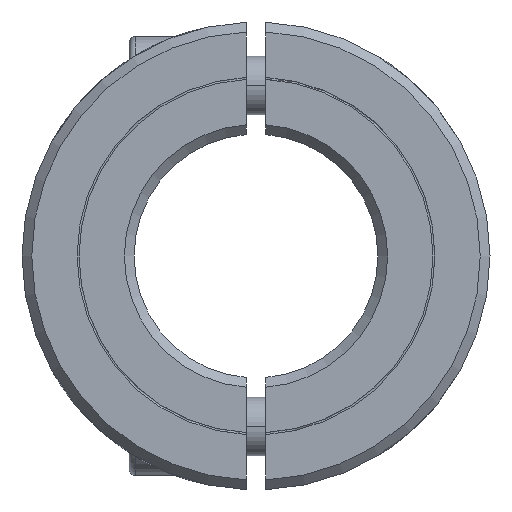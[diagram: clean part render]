
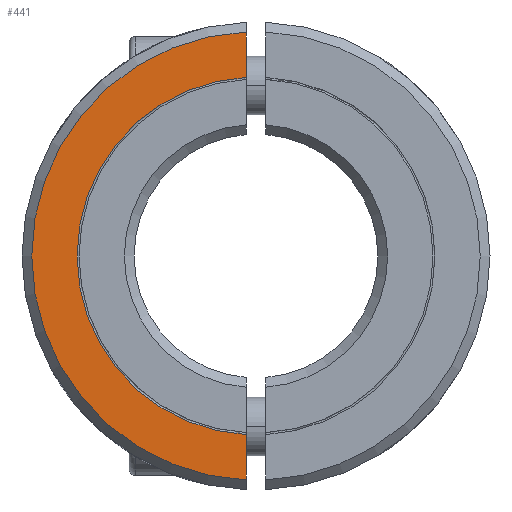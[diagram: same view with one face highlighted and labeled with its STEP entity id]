
A CAD part, left-side view. The second image highlights one B-rep face of the part: STEP entity #441.
In plain terms, the highlighted planar face has unit normal (-1, 0, 0).
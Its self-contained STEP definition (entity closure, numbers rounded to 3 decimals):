
#26=CARTESIAN_POINT('',(-7.5,0.,0.));
#27=DIRECTION('',(-1.,0.,0.));
#28=DIRECTION('',(0.,0.054,0.999));
#29=AXIS2_PLACEMENT_3D('',#26,#27,#28);
#31=DIRECTION('',(0.,0.,-1.));
#32=VECTOR('',#31,4.656);
#33=CARTESIAN_POINT('',(-7.5,1.,-18.323));
#34=LINE('',#33,#32);
#35=DIRECTION('',(0.,0.,-1.));
#36=VECTOR('',#35,4.656);
#37=CARTESIAN_POINT('',(-7.5,1.,22.978));
#38=LINE('',#37,#36);
#207=CARTESIAN_POINT('',(-7.5,0.,0.));
#208=DIRECTION('',(1.,0.,0.));
#209=DIRECTION('',(0.,0.043,-0.999));
#210=AXIS2_PLACEMENT_3D('',#207,#208,#209);
#386=CARTESIAN_POINT('',(-7.5,1.,-22.978));
#387=CARTESIAN_POINT('',(-7.5,1.,22.978));
#388=VERTEX_POINT('',#386);
#389=VERTEX_POINT('',#387);
#418=CARTESIAN_POINT('',(-7.5,1.,18.323));
#419=CARTESIAN_POINT('',(-7.5,1.,-18.323));
#420=VERTEX_POINT('',#418);
#421=VERTEX_POINT('',#419);
#426=CARTESIAN_POINT('',(-7.5,0.,0.));
#427=DIRECTION('',(1.,0.,0.));
#428=DIRECTION('',(0.,0.,-1.));
#429=AXIS2_PLACEMENT_3D('',#426,#427,#428);
#430=PLANE('',#429);
#432=ORIENTED_EDGE('',*,*,#431,.T.);
#434=ORIENTED_EDGE('',*,*,#433,.T.);
#436=ORIENTED_EDGE('',*,*,#435,.T.);
#438=ORIENTED_EDGE('',*,*,#437,.T.);
#439=EDGE_LOOP('',(#432,#434,#436,#438));
#440=FACE_OUTER_BOUND('',#439,.F.);
#441=ADVANCED_FACE('',(#440),#430,.F.);
#30=CIRCLE('',#29,18.35);
#211=CIRCLE('',#210,23.);
#431=EDGE_CURVE('',#420,#421,#30,.T.);
#433=EDGE_CURVE('',#421,#388,#34,.T.);
#435=EDGE_CURVE('',#388,#389,#211,.T.);
#437=EDGE_CURVE('',#389,#420,#38,.T.);
